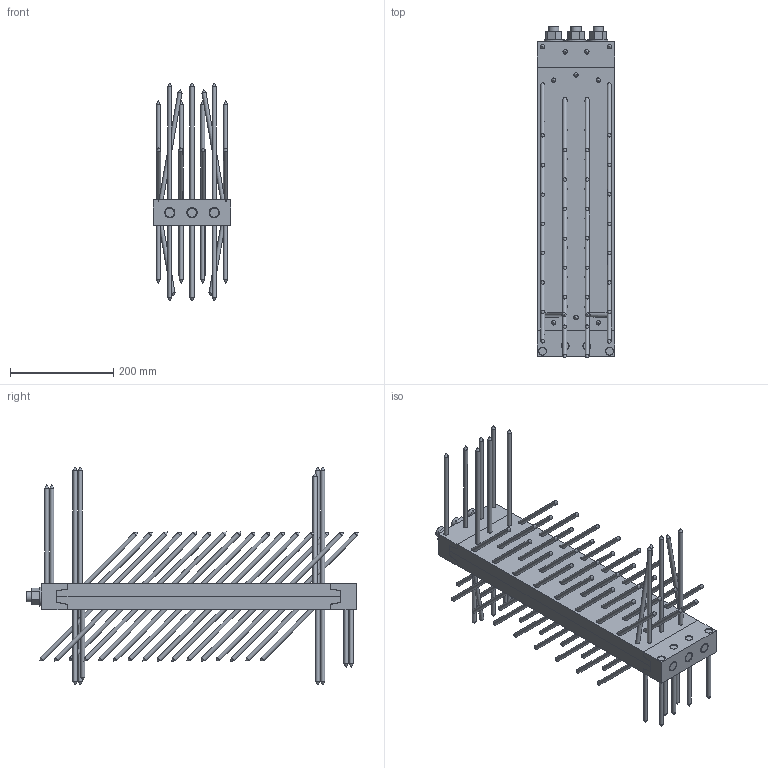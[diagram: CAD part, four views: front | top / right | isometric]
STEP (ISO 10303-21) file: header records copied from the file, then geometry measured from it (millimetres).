
FILE_DESCRIPTION(/* description */ ('Unknown'),/* implementation_level */ '2;1');
FILE_NAME(/* name */ 'MEGANT_610x150x50_sichtbar',/* time_stamp */ '2023-03-16T08:57:44+01:00',/* author */ ('Unknown'),/* organization */ ('Unknown'),/* preprocessor_version */ 'ST-DEVELOPER v16.7',/* originating_system */ 'Solid Edge',/* authorisation */ 'Unknown');
FILE_SCHEMA (('AUTOMOTIVE_DESIGN {1 0 10303 214 3 1 1}'));
Length unit declared in the file: millimetre
Products named in the file (13): MEGANT_610x150x50_sichtbar; Verbinderplatte_550x150x25_NT; SK_Knapp_Schraube_8x160; 2016-02-08_Verbinderplatte_150x25x550; SK_Schraube_8x240; Verbinderplatte_550x150x25_HT; Spannbacke_unten_150x50x50_NT; Spannbacke_unten_150x50x50; Spannbacke_unten_150x50x50_HT; SK_Schraube_8x160; Beilagscheibe_M20; Mutter_M20; Gewindestange_M20_L640
Assembly tree (105 placements, depth 3):
  MEGANT_610x150x50_sichtbar
    Verbinderplatte_550x150x25_NT
      SK_Knapp_Schraube_8x160  x32
      2016-02-08_Verbinderplatte_150x25x550
      SK_Schraube_8x240  x8
    Verbinderplatte_550x150x25_HT
      SK_Knapp_Schraube_8x160  x40
      2016-02-08_Verbinderplatte_150x25x550
    Spannbacke_unten_150x50x50_NT
      Spannbacke_unten_150x50x50
      SK_Schraube_8x240  x4
    Spannbacke_unten_150x50x50_HT
      Spannbacke_unten_150x50x50
      SK_Schraube_8x160  x4
    Beilagscheibe_M20  x3
    Mutter_M20  x3
    Gewindestange_M20_L640  x3
Bounding box: 150 x 643.23 x 422 mm (x, y, z)
Volume: 4842371.9 mm3; surface area: 1158382.5 mm2
Topology: 101 solids, 101 shells, 1503 faces, 3541 edges, 2275 vertices
Faces by surface type: plane 735, cylinder 314, cone 264, bspline 118, torus 72
Full cylindrical faces by diameter (mm): 8 x88, 8.5 x88, 15 x104, 17.294 x9, 20 x3, 21 x3, 37 x3
Entity records: 18488 total; most frequent: CARTESIAN_POINT 6047, ORIENTED_EDGE 2288, DIRECTION 2104, EDGE_CURVE 1144, FACE_BOUND 847, EDGE_LOOP 844, VERTEX_POINT 839, AXIS2_PLACEMENT_3D 838
